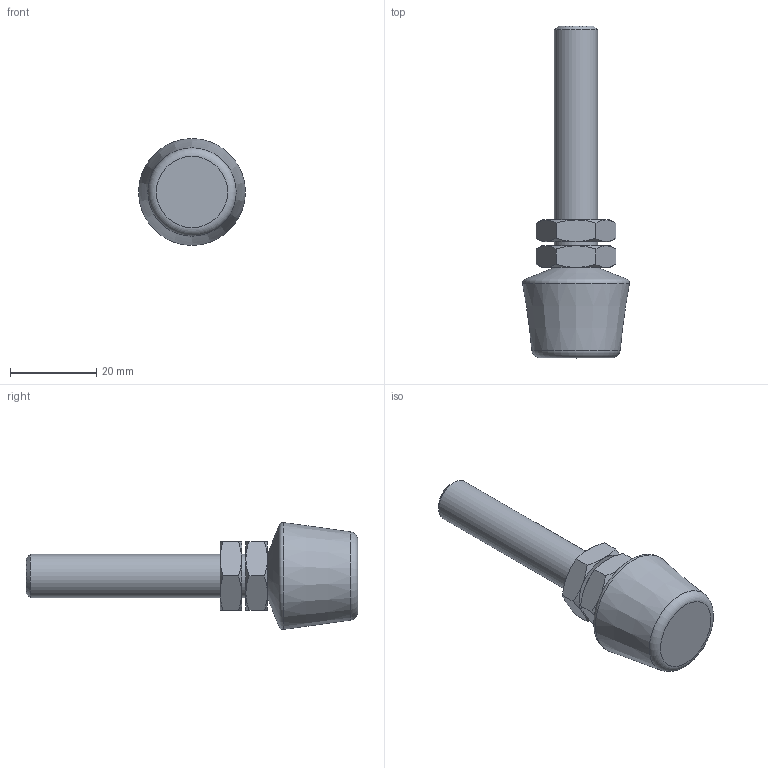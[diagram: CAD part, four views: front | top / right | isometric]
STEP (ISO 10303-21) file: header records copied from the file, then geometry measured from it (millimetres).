
FILE_DESCRIPTION( ( 'STEP AP203' ), '1' );
FILE_NAME( 'C:/Temp/Ganter_Step_05_03_2020/data/2_4/gn_708_1/gn_708_1_ni/Stainless Steel-Clamping bolt GN 708.1-M10-77-A-NI (0).stp', '2020-03-13T05:51:20', ( 'License CC BY-ND 4.0' ), ( 'CADENAS' ), ' ', 'PARTsolutions', ' ' );
FILE_SCHEMA( ( 'CONFIG_CONTROL_DESIGN' ) );
Length unit declared in the file: millimetre
Products named in the file (3): Stainless Steel-Clamping bolt GN 708.1-M10-77-A-NI (0); _Edelstahl-Andrueckschraube GN 708.1-M10-77-A-NI (0)-1; _Edelstahl-Andrueckschraube GN 708.1-M10-77-A-NI-2
Assembly tree (3 placements, depth 2):
  Stainless Steel-Clamping bolt GN 708.1-M10-77-A-NI (0)
    _Edelstahl-Andrueckschraube GN 708.1-M10-77-A-NI (0)-1
    _Edelstahl-Andrueckschraube GN 708.1-M10-77-A-NI-2  x2
Bounding box: 24.8 x 77 x 24.8 mm (x, y, z)
Volume: 13902.3 mm3; surface area: 5198.9 mm2
Topology: 3 solids, 3 shells, 54 faces, 111 edges, 63 vertices
Faces by surface type: cone 31, plane 18, cylinder 3, torus 2
Full cylindrical faces by diameter (mm): 8.376 x2, 10 x1
Entity records: 954 total; most frequent: CARTESIAN_POINT 260, DIRECTION 122, ORIENTED_EDGE 106, AXIS2_PLACEMENT_3D 58, EDGE_CURVE 53, EDGE_LOOP 42, VERTEX_POINT 36, FACE_OUTER_BOUND 35
